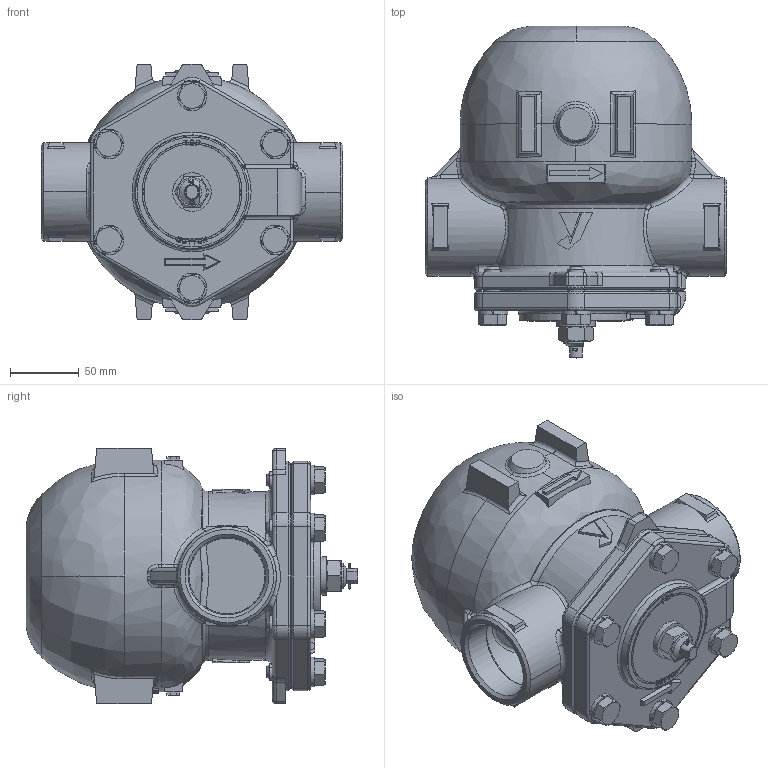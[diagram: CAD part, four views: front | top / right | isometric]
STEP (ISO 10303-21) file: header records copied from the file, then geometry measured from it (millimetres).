
FILE_DESCRIPTION( (''), '2;1');
FILE_NAME ('PC1027.12188.TSF-11S JISRc 50A_23598.stp','2025-07-31T09:53:02',(''),(''),'spGate 20.6.3 (****-****-****-****)','','');
FILE_SCHEMA (('AUTOMOTIVE_DESIGN'));
Length unit declared in the file: millimetre
Products named in the file (11): Assembly; _{__50A ____; 3D_@TSF-10_@_____s__; 3D_@TSF-10_@_Z_p_i_b_g; 3D_@TSF-10_@_J___[; 3D_@TSF-11_@________; ____; _R_b_N____; CP_''_JIS B 1180 _____a_Z_p_{___g''_17168; SSLW12; ________
Assembly tree (20 placements, depth 2):
  Assembly
    _{__50A ____
    3D_@TSF-10_@_____s__
    3D_@TSF-10_@_Z_p_i_b_g
    3D_@TSF-10_@_J___[
    3D_@TSF-11_@________
    ____
    _R_b_N____
    CP_''_JIS B 1180 _____a_Z_p_{___g''_17168  x6
    SSLW12  x6
    ________
Bounding box: 220 x 242 x 186 mm (x, y, z)
Volume: 3857211.4 mm3; surface area: 260040.7 mm2
Topology: 20 solids, 20 shells, 917 faces, 2909 edges, 2047 vertices
Faces by surface type: plane 406, bspline 306, cylinder 205
Entity records: 61223 total; most frequent: CARTESIAN_POINT 26075, ORIENTED_EDGE 4730, COLOUR_RGB 3142, PRESENTATION_STYLE_ASSIGNMENT 3142, STYLED_ITEM 3142, DIRECTION 2450, EDGE_CURVE 2365, DRAUGHTING_PRE_DEFINED_CURVE_FONT 2365
